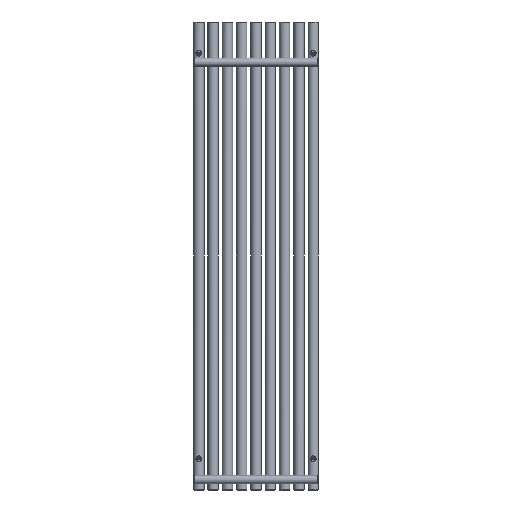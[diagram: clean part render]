
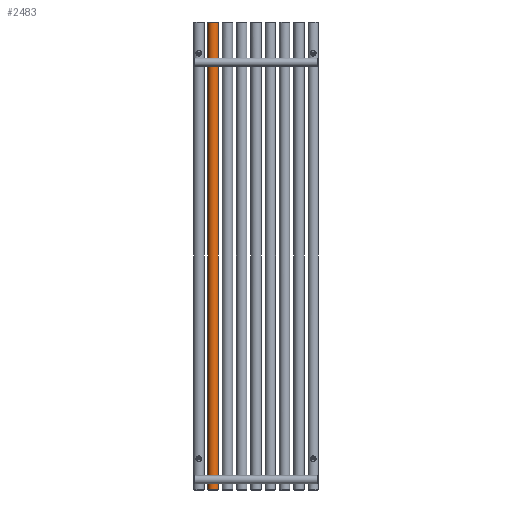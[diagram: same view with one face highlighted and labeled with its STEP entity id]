
A CAD part, front view. The second image highlights one B-rep face of the part: STEP entity #2483.
In plain terms, the highlighted cylindrical face has radius 20 mm (diameter 40 mm), a full revolution.
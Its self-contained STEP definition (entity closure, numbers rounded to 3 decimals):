
#187=FACE_BOUND('',#599,.T.);
#188=FACE_BOUND('',#600,.T.);
#230=LINE('',#4524,#308);
#308=VECTOR('',#3076,20.);
#386=CYLINDRICAL_SURFACE('',#2698,20.);
#423=FACE_OUTER_BOUND('',#598,.T.);
#598=EDGE_LOOP('',(#1735,#1736,#1737,#1738,#1739));
#599=EDGE_LOOP('',(#1740));
#600=EDGE_LOOP('',(#1741));
#810=B_SPLINE_CURVE_WITH_KNOTS('',3,(#4499,#4500,#4501,#4502,#4503,#4504,
#4505,#4506,#4507,#4508,#4509,#4510,#4511,#4512,#4513,#4514,#4515,#4516,
#4517,#4518),.UNSPECIFIED.,.T.,.F.,(4,1,1,1,1,1,1,1,1,1,1,1,1,1,1,1,1,4),
(-5.132,-4.765,-4.399,-3.91,
-3.788,-3.666,-3.421,-3.177,
-2.933,-2.444,-2.199,-1.955,
-1.711,-1.466,-1.1,-0.733,
-0.367,0.),.UNSPECIFIED.);
#811=B_SPLINE_CURVE_WITH_KNOTS('',3,(#4528,#4529,#4530,#4531,#4532,#4533,
#4534,#4535,#4536,#4537,#4538,#4539,#4540,#4541,#4542,#4543,#4544,#4545,
#4546,#4547,#4548,#4549,#4550,#4551,#4552,#4553,#4554,#4555,#4556,#4557,
#4558,#4559,#4560,#4561,#4562,#4563,#4564,#4565,#4566,#4567,#4568,#4569,
#4570,#4571,#4572,#4573,#4574,#4575,#4576,#4577,#4578,#4579,#4580,#4581,
#4582,#4583,#4584,#4585,#4586,#4587,#4588,#4589,#4590,#4591,#4592,#4593,
#4594,#4595,#4596,#4597),.UNSPECIFIED.,.T.,.F.,(4,3,3,3,3,3,3,3,3,3,3,3,
3,3,3,3,3,3,3,3,3,3,3,4),(-5.132,-4.765,-4.582,
-4.399,-4.338,-4.277,-4.154,
-3.91,-3.788,-3.666,-3.421,
-3.177,-2.933,-2.444,-2.199,
-2.077,-1.955,-1.711,-1.466,
-1.283,-1.1,-0.733,-0.367,
0.),.UNSPECIFIED.);
#877=CIRCLE('',#2699,20.);
#878=CIRCLE('',#2700,20.);
#879=CIRCLE('',#2701,20.);
#1089=VERTEX_POINT('',#4497);
#1090=VERTEX_POINT('',#4520);
#1091=VERTEX_POINT('',#4521);
#1092=VERTEX_POINT('',#4523);
#1093=VERTEX_POINT('',#4527);
#1349=EDGE_CURVE('',#1089,#1089,#810,.T.);
#1350=EDGE_CURVE('',#1090,#1091,#877,.T.);
#1351=EDGE_CURVE('',#1090,#1092,#230,.T.);
#1352=EDGE_CURVE('',#1092,#1092,#878,.T.);
#1353=EDGE_CURVE('',#1091,#1090,#879,.T.);
#1354=EDGE_CURVE('',#1093,#1093,#811,.T.);
#1735=ORIENTED_EDGE('',*,*,#1350,.F.);
#1736=ORIENTED_EDGE('',*,*,#1351,.T.);
#1737=ORIENTED_EDGE('',*,*,#1352,.F.);
#1738=ORIENTED_EDGE('',*,*,#1351,.F.);
#1739=ORIENTED_EDGE('',*,*,#1353,.F.);
#1740=ORIENTED_EDGE('',*,*,#1354,.F.);
#1741=ORIENTED_EDGE('',*,*,#1349,.F.);
#2483=ADVANCED_FACE('',(#423,#187,#188),#386,.T.);
#2698=AXIS2_PLACEMENT_3D('',#4519,#3072,#3073);
#2699=AXIS2_PLACEMENT_3D('',#4522,#3074,#3075);
#2700=AXIS2_PLACEMENT_3D('',#4525,#3077,#3078);
#2701=AXIS2_PLACEMENT_3D('',#4526,#3079,#3080);
#3072=DIRECTION('center_axis',(0.,0.,1.));
#3073=DIRECTION('ref_axis',(-1.,0.,0.));
#3074=DIRECTION('center_axis',(0.,0.,1.));
#3075=DIRECTION('ref_axis',(-1.,0.,0.));
#3076=DIRECTION('',(0.,0.,-1.));
#3077=DIRECTION('center_axis',(0.,0.,-1.));
#3078=DIRECTION('ref_axis',(-1.,0.,0.));
#3079=DIRECTION('center_axis',(0.,0.,1.));
#3080=DIRECTION('ref_axis',(-1.,0.,0.));
#4497=CARTESIAN_POINT('',(-385.,-20.,50.1));
#4499=CARTESIAN_POINT('Ctrl Pts',(-385.,-20.,50.1));
#4500=CARTESIAN_POINT('Ctrl Pts',(-386.611,-20.,50.1));
#4501=CARTESIAN_POINT('Ctrl Pts',(-389.831,-19.609,49.581));
#4502=CARTESIAN_POINT('Ctrl Pts',(-394.316,-17.862,46.748));
#4503=CARTESIAN_POINT('Ctrl Pts',(-396.001,-16.692,42.52));
#4504=CARTESIAN_POINT('Ctrl Pts',(-395.992,-16.71,39.163));
#4505=CARTESIAN_POINT('Ctrl Pts',(-395.668,-16.917,36.969));
#4506=CARTESIAN_POINT('Ctrl Pts',(-394.648,-17.555,34.431));
#4507=CARTESIAN_POINT('Ctrl Pts',(-392.535,-18.589,32.082));
#4508=CARTESIAN_POINT('Ctrl Pts',(-388.836,-19.82,30.087));
#4509=CARTESIAN_POINT('Ctrl Pts',(-384.419,-20.202,29.641));
#4510=CARTESIAN_POINT('Ctrl Pts',(-380.239,-19.503,30.58));
#4511=CARTESIAN_POINT('Ctrl Pts',(-377.466,-18.591,32.084));
#4512=CARTESIAN_POINT('Ctrl Pts',(-375.351,-17.553,34.428));
#4513=CARTESIAN_POINT('Ctrl Pts',(-373.927,-16.66,37.981));
#4514=CARTESIAN_POINT('Ctrl Pts',(-373.921,-16.659,42.599));
#4515=CARTESIAN_POINT('Ctrl Pts',(-376.137,-18.052,47.027));
#4516=CARTESIAN_POINT('Ctrl Pts',(-380.165,-19.6,49.585));
#4517=CARTESIAN_POINT('Ctrl Pts',(-383.389,-20.,50.1));
#4518=CARTESIAN_POINT('Ctrl Pts',(-385.,-20.,50.1));
#4519=CARTESIAN_POINT('Origin',(-385.,0.,0.));
#4520=CARTESIAN_POINT('',(-365.,0.,1798.));
#4521=CARTESIAN_POINT('',(-405.,0.,1798.));
#4522=CARTESIAN_POINT('Origin',(-385.,0.,1798.));
#4523=CARTESIAN_POINT('',(-365.,0.,2.));
#4524=CARTESIAN_POINT('',(-365.,0.,0.));
#4525=CARTESIAN_POINT('Origin',(-385.,0.,2.));
#4526=CARTESIAN_POINT('Origin',(-385.,0.,1798.));
#4527=CARTESIAN_POINT('',(-385.,-20.,1655.1));
#4528=CARTESIAN_POINT('Ctrl Pts',(-385.,-20.,1655.1));
#4529=CARTESIAN_POINT('Ctrl Pts',(-386.611,-20.,1655.1));
#4530=CARTESIAN_POINT('Ctrl Pts',(-388.224,-19.796,1654.84));
#4531=CARTESIAN_POINT('Ctrl Pts',(-389.701,-19.44,1654.287));
#4532=CARTESIAN_POINT('Ctrl Pts',(-390.439,-19.262,1654.01));
#4533=CARTESIAN_POINT('Ctrl Pts',(-391.144,-19.045,1653.66));
#4534=CARTESIAN_POINT('Ctrl Pts',(-391.794,-18.811,1653.231));
#4535=CARTESIAN_POINT('Ctrl Pts',(-392.443,-18.576,1652.803));
#4536=CARTESIAN_POINT('Ctrl Pts',(-393.038,-18.323,1652.295));
#4537=CARTESIAN_POINT('Ctrl Pts',(-393.559,-18.076,1651.713));
#4538=CARTESIAN_POINT('Ctrl Pts',(-393.733,-17.994,1651.519));
#4539=CARTESIAN_POINT('Ctrl Pts',(-393.899,-17.912,1651.317));
#4540=CARTESIAN_POINT('Ctrl Pts',(-394.056,-17.832,1651.107));
#4541=CARTESIAN_POINT('Ctrl Pts',(-394.213,-17.753,1650.897));
#4542=CARTESIAN_POINT('Ctrl Pts',(-394.361,-17.675,1650.68));
#4543=CARTESIAN_POINT('Ctrl Pts',(-394.5,-17.6,1650.455));
#4544=CARTESIAN_POINT('Ctrl Pts',(-394.778,-17.45,1650.005));
#4545=CARTESIAN_POINT('Ctrl Pts',(-395.019,-17.311,1649.528));
#4546=CARTESIAN_POINT('Ctrl Pts',(-395.221,-17.191,1649.028));
#4547=CARTESIAN_POINT('Ctrl Pts',(-395.624,-16.951,1648.028));
#4548=CARTESIAN_POINT('Ctrl Pts',(-395.87,-16.788,1646.94));
#4549=CARTESIAN_POINT('Ctrl Pts',(-395.952,-16.734,1645.833));
#4550=CARTESIAN_POINT('Ctrl Pts',(-395.993,-16.707,1645.28));
#4551=CARTESIAN_POINT('Ctrl Pts',(-395.992,-16.708,1644.722));
#4552=CARTESIAN_POINT('Ctrl Pts',(-395.952,-16.735,1644.168));
#4553=CARTESIAN_POINT('Ctrl Pts',(-395.911,-16.761,1643.615));
#4554=CARTESIAN_POINT('Ctrl Pts',(-395.829,-16.814,1643.066));
#4555=CARTESIAN_POINT('Ctrl Pts',(-395.707,-16.892,1642.531));
#4556=CARTESIAN_POINT('Ctrl Pts',(-395.463,-17.047,1641.46));
#4557=CARTESIAN_POINT('Ctrl Pts',(-395.056,-17.3,1640.446));
#4558=CARTESIAN_POINT('Ctrl Pts',(-394.5,-17.6,1639.547));
#4559=CARTESIAN_POINT('Ctrl Pts',(-393.944,-17.899,1638.648));
#4560=CARTESIAN_POINT('Ctrl Pts',(-393.239,-18.245,1637.865));
#4561=CARTESIAN_POINT('Ctrl Pts',(-392.425,-18.571,1637.224));
#4562=CARTESIAN_POINT('Ctrl Pts',(-391.61,-18.897,1636.583));
#4563=CARTESIAN_POINT('Ctrl Pts',(-390.685,-19.205,1636.085));
#4564=CARTESIAN_POINT('Ctrl Pts',(-389.701,-19.442,1635.715));
#4565=CARTESIAN_POINT('Ctrl Pts',(-387.731,-19.916,1634.976));
#4566=CARTESIAN_POINT('Ctrl Pts',(-385.523,-20.108,1634.753));
#4567=CARTESIAN_POINT('Ctrl Pts',(-383.393,-19.938,1634.992));
#4568=CARTESIAN_POINT('Ctrl Pts',(-382.329,-19.853,1635.111));
#4569=CARTESIAN_POINT('Ctrl Pts',(-381.284,-19.677,1635.345));
#4570=CARTESIAN_POINT('Ctrl Pts',(-380.299,-19.438,1635.714));
#4571=CARTESIAN_POINT('Ctrl Pts',(-379.807,-19.319,1635.898));
#4572=CARTESIAN_POINT('Ctrl Pts',(-379.33,-19.184,1636.115));
#4573=CARTESIAN_POINT('Ctrl Pts',(-378.874,-19.038,1636.367));
#4574=CARTESIAN_POINT('Ctrl Pts',(-378.418,-18.891,1636.618));
#4575=CARTESIAN_POINT('Ctrl Pts',(-377.983,-18.733,1636.904));
#4576=CARTESIAN_POINT('Ctrl Pts',(-377.576,-18.57,1637.224));
#4577=CARTESIAN_POINT('Ctrl Pts',(-376.761,-18.244,1637.865));
#4578=CARTESIAN_POINT('Ctrl Pts',(-376.056,-17.899,1638.647));
#4579=CARTESIAN_POINT('Ctrl Pts',(-375.5,-17.599,1639.545));
#4580=CARTESIAN_POINT('Ctrl Pts',(-374.943,-17.299,1640.444));
#4581=CARTESIAN_POINT('Ctrl Pts',(-374.536,-17.046,1641.459));
#4582=CARTESIAN_POINT('Ctrl Pts',(-374.292,-16.891,1642.53));
#4583=CARTESIAN_POINT('Ctrl Pts',(-374.109,-16.775,1643.332));
#4584=CARTESIAN_POINT('Ctrl Pts',(-374.018,-16.714,1644.166));
#4585=CARTESIAN_POINT('Ctrl Pts',(-374.017,-16.714,1645.));
#4586=CARTESIAN_POINT('Ctrl Pts',(-374.017,-16.714,1645.834));
#4587=CARTESIAN_POINT('Ctrl Pts',(-374.108,-16.774,1646.668));
#4588=CARTESIAN_POINT('Ctrl Pts',(-374.292,-16.891,1647.47));
#4589=CARTESIAN_POINT('Ctrl Pts',(-374.66,-17.125,1649.075));
#4590=CARTESIAN_POINT('Ctrl Pts',(-375.399,-17.587,1650.551));
#4591=CARTESIAN_POINT('Ctrl Pts',(-376.44,-18.076,1651.715));
#4592=CARTESIAN_POINT('Ctrl Pts',(-377.481,-18.566,1652.879));
#4593=CARTESIAN_POINT('Ctrl Pts',(-378.823,-19.084,1653.732));
#4594=CARTESIAN_POINT('Ctrl Pts',(-380.3,-19.442,1654.287));
#4595=CARTESIAN_POINT('Ctrl Pts',(-381.777,-19.801,1654.842));
#4596=CARTESIAN_POINT('Ctrl Pts',(-383.389,-20.,1655.1));
#4597=CARTESIAN_POINT('Ctrl Pts',(-385.,-20.,1655.1));
